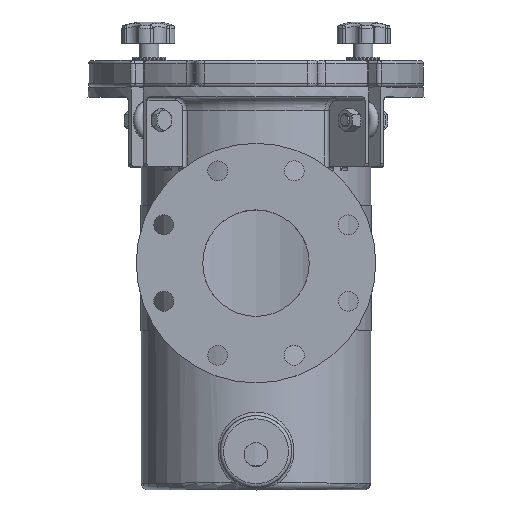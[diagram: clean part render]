
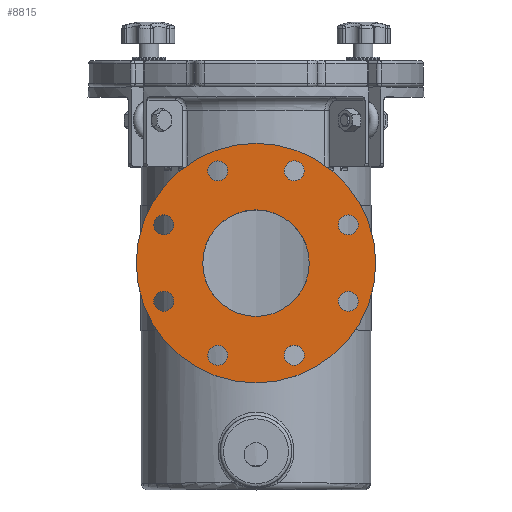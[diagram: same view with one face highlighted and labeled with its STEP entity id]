
A CAD part, top view. The second image highlights one B-rep face of the part: STEP entity #8815.
In plain terms, the highlighted planar face has unit normal (0, 0, 1).
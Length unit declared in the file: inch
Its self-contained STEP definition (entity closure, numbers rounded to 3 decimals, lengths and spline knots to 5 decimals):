
#1183=PLANE('',#9559);
#1797=FACE_BOUND('',#2689,.T.);
#1798=FACE_BOUND('',#2690,.T.);
#1799=FACE_BOUND('',#2691,.T.);
#1800=FACE_BOUND('',#2692,.T.);
#1801=FACE_BOUND('',#2693,.T.);
#1802=FACE_BOUND('',#2694,.T.);
#1803=FACE_BOUND('',#2695,.T.);
#1804=FACE_BOUND('',#2696,.T.);
#1805=FACE_BOUND('',#2697,.T.);
#2050=FACE_OUTER_BOUND('',#2688,.T.);
#2688=EDGE_LOOP('',(#6557));
#2689=EDGE_LOOP('',(#6558));
#2690=EDGE_LOOP('',(#6559));
#2691=EDGE_LOOP('',(#6560));
#2692=EDGE_LOOP('',(#6561));
#2693=EDGE_LOOP('',(#6562));
#2694=EDGE_LOOP('',(#6563));
#2695=EDGE_LOOP('',(#6564));
#2696=EDGE_LOOP('',(#6565));
#2697=EDGE_LOOP('',(#6566));
#3186=CIRCLE('',#9269,2.);
#3334=CIRCLE('',#9542,0.375);
#3335=CIRCLE('',#9544,0.375);
#3336=CIRCLE('',#9546,0.375);
#3337=CIRCLE('',#9548,0.375);
#3338=CIRCLE('',#9550,0.375);
#3339=CIRCLE('',#9552,0.375);
#3340=CIRCLE('',#9554,0.375);
#3341=CIRCLE('',#9556,0.375);
#3342=CIRCLE('',#9558,4.5);
#3775=VERTEX_POINT('',#14435);
#3999=VERTEX_POINT('',#17012);
#4000=VERTEX_POINT('',#17015);
#4001=VERTEX_POINT('',#17018);
#4002=VERTEX_POINT('',#17021);
#4003=VERTEX_POINT('',#17024);
#4004=VERTEX_POINT('',#17027);
#4005=VERTEX_POINT('',#17030);
#4006=VERTEX_POINT('',#17033);
#4007=VERTEX_POINT('',#17036);
#4575=EDGE_CURVE('',#3775,#3775,#3186,.T.);
#4919=EDGE_CURVE('',#3999,#3999,#3334,.T.);
#4920=EDGE_CURVE('',#4000,#4000,#3335,.T.);
#4921=EDGE_CURVE('',#4001,#4001,#3336,.T.);
#4922=EDGE_CURVE('',#4002,#4002,#3337,.T.);
#4923=EDGE_CURVE('',#4003,#4003,#3338,.T.);
#4924=EDGE_CURVE('',#4004,#4004,#3339,.T.);
#4925=EDGE_CURVE('',#4005,#4005,#3340,.T.);
#4926=EDGE_CURVE('',#4006,#4006,#3341,.T.);
#4927=EDGE_CURVE('',#4007,#4007,#3342,.T.);
#6557=ORIENTED_EDGE('',*,*,#4927,.F.);
#6558=ORIENTED_EDGE('',*,*,#4919,.T.);
#6559=ORIENTED_EDGE('',*,*,#4920,.T.);
#6560=ORIENTED_EDGE('',*,*,#4921,.T.);
#6561=ORIENTED_EDGE('',*,*,#4922,.T.);
#6562=ORIENTED_EDGE('',*,*,#4923,.T.);
#6563=ORIENTED_EDGE('',*,*,#4924,.T.);
#6564=ORIENTED_EDGE('',*,*,#4925,.T.);
#6565=ORIENTED_EDGE('',*,*,#4926,.T.);
#6566=ORIENTED_EDGE('',*,*,#4575,.T.);
#8815=ADVANCED_FACE('',(#2050,#1797,#1798,#1799,#1800,#1801,#1802,#1803,
#1804,#1805),#1183,.T.);
#9269=AXIS2_PLACEMENT_3D('',#14436,#10490,#10491);
#9542=AXIS2_PLACEMENT_3D('',#17013,#11140,#11141);
#9544=AXIS2_PLACEMENT_3D('',#17016,#11144,#11145);
#9546=AXIS2_PLACEMENT_3D('',#17019,#11148,#11149);
#9548=AXIS2_PLACEMENT_3D('',#17022,#11152,#11153);
#9550=AXIS2_PLACEMENT_3D('',#17025,#11156,#11157);
#9552=AXIS2_PLACEMENT_3D('',#17028,#11160,#11161);
#9554=AXIS2_PLACEMENT_3D('',#17031,#11164,#11165);
#9556=AXIS2_PLACEMENT_3D('',#17034,#11168,#11169);
#9558=AXIS2_PLACEMENT_3D('',#17037,#11172,#11173);
#9559=AXIS2_PLACEMENT_3D('',#17038,#11174,#11175);
#10490=DIRECTION('center_axis',(0.,0.,-1.));
#10491=DIRECTION('ref_axis',(-1.,0.,0.));
#11140=DIRECTION('center_axis',(0.,0.,-1.));
#11141=DIRECTION('ref_axis',(-0.707,-0.707,0.));
#11144=DIRECTION('center_axis',(0.,0.,-1.));
#11145=DIRECTION('ref_axis',(0.,-1.,0.));
#11148=DIRECTION('center_axis',(0.,0.,-1.));
#11149=DIRECTION('ref_axis',(0.707,-0.707,0.));
#11152=DIRECTION('center_axis',(0.,0.,-1.));
#11153=DIRECTION('ref_axis',(1.,0.,0.));
#11156=DIRECTION('center_axis',(0.,0.,-1.));
#11157=DIRECTION('ref_axis',(0.707,0.707,0.));
#11160=DIRECTION('center_axis',(0.,0.,-1.));
#11161=DIRECTION('ref_axis',(0.,1.,0.));
#11164=DIRECTION('center_axis',(0.,0.,-1.));
#11165=DIRECTION('ref_axis',(-0.707,0.707,0.));
#11168=DIRECTION('center_axis',(0.,0.,-1.));
#11169=DIRECTION('ref_axis',(-1.,0.,0.));
#11172=DIRECTION('center_axis',(0.,0.,-1.));
#11173=DIRECTION('ref_axis',(-1.,0.,0.));
#11174=DIRECTION('center_axis',(0.,0.,1.));
#11175=DIRECTION('ref_axis',(1.,0.,0.));
#14435=CARTESIAN_POINT('',(2.,8.5,9.));
#14436=CARTESIAN_POINT('Origin',(0.,8.5,9.));
#17012=CARTESIAN_POINT('',(-3.19938,10.20023,9.));
#17013=CARTESIAN_POINT('Origin',(-3.46455,9.93506,9.));
#17015=CARTESIAN_POINT('',(-3.46455,7.43994,9.));
#17016=CARTESIAN_POINT('Origin',(-3.46455,7.06494,9.));
#17018=CARTESIAN_POINT('',(-1.70023,5.30062,9.));
#17019=CARTESIAN_POINT('Origin',(-1.43506,5.03545,9.));
#17021=CARTESIAN_POINT('',(1.06006,5.03545,9.));
#17022=CARTESIAN_POINT('Origin',(1.43506,5.03545,9.));
#17024=CARTESIAN_POINT('',(3.19938,6.79977,9.));
#17025=CARTESIAN_POINT('Origin',(3.46455,7.06494,9.));
#17027=CARTESIAN_POINT('',(3.46455,9.56006,9.));
#17028=CARTESIAN_POINT('Origin',(3.46455,9.93506,9.));
#17030=CARTESIAN_POINT('',(1.70023,11.69938,9.));
#17031=CARTESIAN_POINT('Origin',(1.43506,11.96455,9.));
#17033=CARTESIAN_POINT('',(-1.06006,11.96455,9.));
#17034=CARTESIAN_POINT('Origin',(-1.43506,11.96455,9.));
#17036=CARTESIAN_POINT('',(4.5,8.5,9.));
#17037=CARTESIAN_POINT('Origin',(0.,8.5,9.));
#17038=CARTESIAN_POINT('Origin',(0.,8.5,9.));
